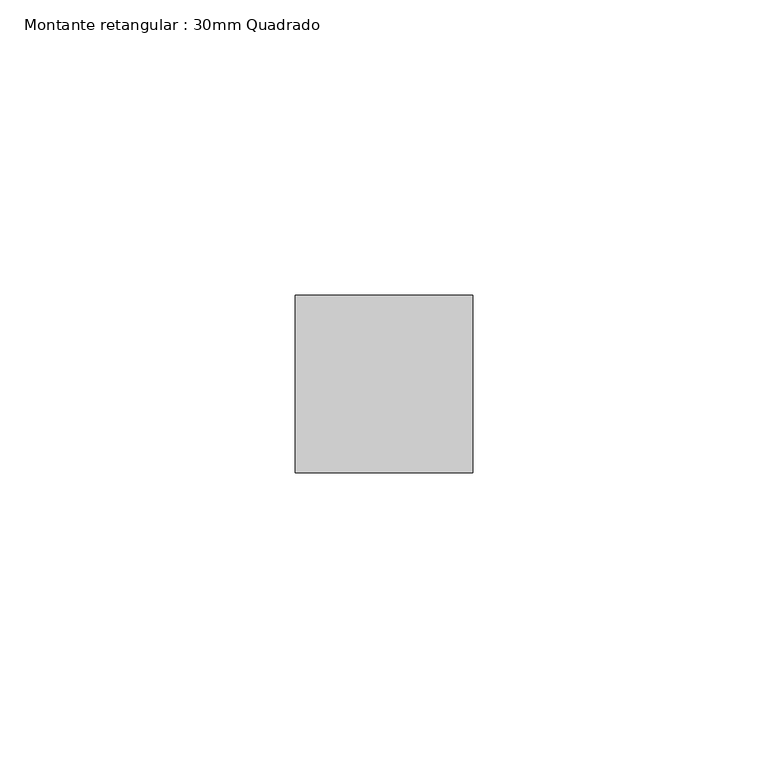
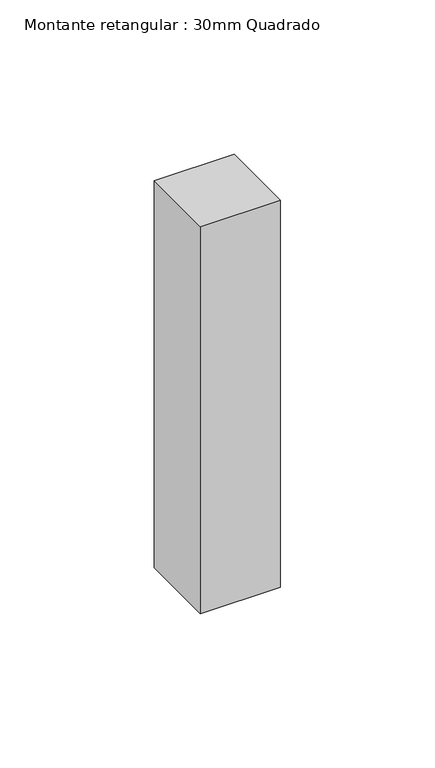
"""IFC4 building model written with IfcOpenShell, lengths in millimetres: member geometry, Montante retangular : 30mm Quadrado."""

import ifcopenshell
import ifcopenshell.guid

model = None  # the IFC model being written
_history = None  # IfcOwnerHistory: only IFC2X3 demands one
_inside = {}  # id of a spatial element -> (the spatial element, [elements in it])
_under = {}  # id of a project, library or spatial element -> (it, [spatial elements below it])
_declared = {}  # id of a project -> (the project, [libraries it declares])
_typed = {}  # id of a type object -> (the type object, [elements of that type])
_made_of = {}  # id of a material, layer set ... -> (it, [elements and type objects made of it])


def new_model(schema):
    """Start an empty IFC model of exactly this schema.

    Asked for "IFC4X3", IfcOpenShell would pick the latest addendum, in which some entities
    have other attributes; the version numbers below select the first issue.
    IFC2X3 requires an IfcOwnerHistory on every rooted entity: one is made here for all.
    """
    global model, _history
    if schema == "IFC4X3":
        model = ifcopenshell.file(schema_version=(4, 3, 0, 0))
    else:
        model = ifcopenshell.file(schema=schema)
    _inside.clear()
    _under.clear()
    _declared.clear()
    _typed.clear()
    _made_of.clear()
    _history = None
    if model.schema == "IFC2X3":
        org = make("IfcOrganization", Name="unknown")
        user = make(
            "IfcPersonAndOrganization",
            ThePerson=make("IfcPerson", FamilyName="unknown"),
            TheOrganization=org,
        )
        app = make(
            "IfcApplication",
            ApplicationDeveloper=org,
            Version="unknown",
            ApplicationFullName="unknown",
            ApplicationIdentifier="unknown",
        )
        _history = make(
            "IfcOwnerHistory",
            OwningUser=user,
            OwningApplication=app,
            ChangeAction="ADDED",
            CreationDate=0,
        )
    return model


def make(cls, **values):
    """One entity of the class cls with the attributes given. An attribute that is None is left unset."""
    return model.create_entity(
        cls, **{name: value for name, value in values.items() if value is not None}
    )


def rooted(cls, **values):
    """An entity with a GlobalId (a new one), such as an element, a storey or a relation."""
    return make(cls, GlobalId=ifcopenshell.guid.new(), OwnerHistory=_history, **values)


def si_unit(unit_type, name, prefix=None):
    """IfcSIUnit, for example si_unit("LENGTHUNIT", "METRE", prefix="MILLI")."""
    return make("IfcSIUnit", UnitType=unit_type, Prefix=prefix, Name=name)


def assignment(units):
    """IfcUnitAssignment: the units of a project."""
    return None if units is None else make("IfcUnitAssignment", Units=units)


def point(xyz):
    """IfcCartesianPoint."""
    return None if xyz is None else make("IfcCartesianPoint", Coordinates=xyz)


def direction(xyz):
    """IfcDirection."""
    return None if xyz is None else make("IfcDirection", DirectionRatios=xyz)


def frame(location, z_axis=None, x_axis=None):
    """IfcAxis2Placement3D, a coordinate frame: its origin and axes. An axis left out is left unset."""
    return make(
        "IfcAxis2Placement3D",
        Location=point(location),
        Axis=direction(z_axis),
        RefDirection=direction(x_axis),
    )


def origin():
    """The frame at (0, 0, 0) with its axes left unset."""
    return frame((0.0, 0.0, 0.0))


def place(relative_to, where):
    """IfcLocalPlacement: puts the frame where relative to a parent placement (None: the world)."""
    return make(
        "IfcLocalPlacement", PlacementRelTo=relative_to, RelativePlacement=where
    )


def context(
    kind, dimensions, precision=None, world=None, true_north=None, identifier=None
):
    """IfcGeometricRepresentationContext, for example the 3D "Model" context."""
    return make(
        "IfcGeometricRepresentationContext",
        ContextIdentifier=identifier,
        ContextType=kind,
        CoordinateSpaceDimension=dimensions,
        Precision=precision,
        WorldCoordinateSystem=world,
        TrueNorth=true_north,
    )


def project(units=None, contexts=None):
    """IfcProject with its units and contexts."""
    return rooted(
        "IfcProject",
        Name="project",
        RepresentationContexts=contexts,
        UnitsInContext=assignment(units),
    )


def spatial(cls, under=None, at=None, **own):
    """A site, building, storey or space (cls), placed at a placement, below another one or the project."""
    s = rooted(cls, ObjectPlacement=at, **own)
    if under is not None:
        _under.setdefault(under.id(), (under, []))[1].append(s)
    return s


def polyline(points):
    """IfcPolyline through the points."""
    return make("IfcPolyline", Points=[point(p) for p in points])


def outline(outer, holes=None, kind="AREA"):
    """IfcArbitraryClosedProfileDef: a profile drawn as a closed curve; with holes, ...WithVoids."""
    if holes is None:
        return make("IfcArbitraryClosedProfileDef", ProfileType=kind, OuterCurve=outer)
    return make(
        "IfcArbitraryProfileDefWithVoids",
        ProfileType=kind,
        OuterCurve=outer,
        InnerCurves=holes,
    )


def extrude(swept, where, along, depth):
    """IfcExtrudedAreaSolid: the profile swept, set in the frame where, extruded along a direction by depth."""
    return make(
        "IfcExtrudedAreaSolid",
        SweptArea=swept,
        Position=where,
        ExtrudedDirection=direction(along),
        Depth=depth,
    )


def shape(context_of_items, identifier, shape_type, items):
    """IfcShapeRepresentation: the items that make up one representation, for example the "Body"."""
    return make(
        "IfcShapeRepresentation",
        ContextOfItems=context_of_items,
        RepresentationIdentifier=identifier,
        RepresentationType=shape_type,
        Items=items,
    )


def source(mapping_origin, context_of_items, identifier, shape_type, items):
    """IfcRepresentationMap: a shape defined once, which mapped items show again and again."""
    return make(
        "IfcRepresentationMap",
        MappingOrigin=mapping_origin,
        MappedRepresentation=shape(context_of_items, identifier, shape_type, items),
    )


def transform(
    local_origin,
    x_axis=None,
    y_axis=None,
    z_axis=None,
    scale=None,
    scale2=None,
    scale3=None,
    uniform=True,
):
    """IfcCartesianTransformationOperator3D, or its non-uniform kind. x_axis, y_axis, z_axis: its Axis1, 2, 3."""
    if uniform:
        return make(
            "IfcCartesianTransformationOperator3D",
            Axis1=direction(x_axis),
            Axis2=direction(y_axis),
            LocalOrigin=point(local_origin),
            Scale=scale,
            Axis3=direction(z_axis),
        )
    return make(
        "IfcCartesianTransformationOperator3DnonUniform",
        Axis1=direction(x_axis),
        Axis2=direction(y_axis),
        LocalOrigin=point(local_origin),
        Scale=scale,
        Axis3=direction(z_axis),
        Scale2=scale2,
        Scale3=scale3,
    )


def mapped(mapping_source, mapping_target):
    """IfcMappedItem: shows the shape of a source again, moved by a transform."""
    return make(
        "IfcMappedItem", MappingSource=mapping_source, MappingTarget=mapping_target
    )


def made_of(thing, what):
    """Note that an element or type object is made of a material, layer set ...; save() writes the relation."""
    if what is not None:
        _made_of.setdefault(what.id(), (what, []))[1].append(thing)
    return thing


def element(
    cls,
    number,
    at=None,
    inside=None,
    cuts=None,
    type_object=None,
    material=None,
    context=None,
    identifier="Body",
    shape_type=None,
    held_by="IfcProductDefinitionShape",
    body=None,
    shapes=None,
    **own,
):
    """One element of the class cls, such as IfcWall. Its Tag is "e" and its number.

    at: its placement. inside: the storey or other place that contains it. cuts: it is an
    opening in that element (IfcRelVoidsElement). A single representation is given by context,
    identifier, shape_type and body (its items); several are given by shapes. held_by: the class
    of the entity that holds the representations. save() writes the other relations.
    """
    e = rooted(cls, Tag="e%d" % number, ObjectPlacement=at, **own)
    if body is not None:
        shapes = [shape(context, identifier, shape_type, body)]
    if shapes is not None:
        e.Representation = make(held_by, Representations=shapes)
    if inside is not None:
        _inside.setdefault(inside.id(), (inside, []))[1].append(e)
    if cuts is not None:
        rooted(
            "IfcRelVoidsElement", RelatingBuildingElement=cuts, RelatedOpeningElement=e
        )
    if type_object is not None:
        _typed.setdefault(type_object.id(), (type_object, []))[1].append(e)
    return made_of(e, material)


def aggregate(whole, parts):
    """IfcRelAggregates: a whole, such as a stair, and the parts it consists of."""
    return rooted("IfcRelAggregates", RelatingObject=whole, RelatedObjects=parts)


def save(model, path):
    """Write the relations noted so far, then the file.

    IfcRelAggregates (storeys below a building ...), IfcRelContainedInSpatialStructure (elements
    in a storey), IfcRelDefinesByType, IfcRelAssociatesMaterial and IfcRelDeclares: one each for
    every whole, place, type object, material and project.
    """
    for whole, parts in _under.values():
        aggregate(whole, parts)
    for where, things in _inside.values():
        rooted(
            "IfcRelContainedInSpatialStructure",
            RelatedElements=things,
            RelatingStructure=where,
        )
    for kind, things in _typed.values():
        rooted("IfcRelDefinesByType", RelatedObjects=things, RelatingType=kind)
    for what, things in _made_of.values():
        rooted("IfcRelAssociatesMaterial", RelatedObjects=things, RelatingMaterial=what)
    for by, libraries in _declared.values():
        rooted("IfcRelDeclares", RelatingContext=by, RelatedDefinitions=libraries)
    model.write(path)


def montante_retangular_30mm_quadrado_48edb5a7(model_context):
    return source(origin(), model_context, "Body", "SweptSolid", [
        extrude(outline(polyline([(15.0, 15.0), (15.0, -15.0), (-15.0, -15.0), (-15.0, 15.0), (15.0, 15.0)])), frame((0.0, 0.0, -153.3905751), z_axis=(0.0, 0.0, 1.0), x_axis=(1.0, 0.0, 0.0)), (0.0, 0.0, 1.0), 153.3905751),
    ])


if __name__ == "__main__":
    model = new_model("IFC4")
    model_context = context("Model", 3, world=origin())
    ifc_project = project(units=[si_unit("LENGTHUNIT", "METRE", prefix="MILLI")], contexts=[model_context])
    site = spatial("IfcSite", under=ifc_project)
    building = spatial("IfcBuilding", under=site)
    placement = place(None, origin())
    montante_retangular_30mm_quadrado_shape = montante_retangular_30mm_quadrado_48edb5a7(model_context)
    element("IfcMember", 1, ObjectType="Montante retangular : 30mm Quadrado", at=placement, inside=building, context=model_context, shape_type="MappedRepresentation", body=[
        mapped(montante_retangular_30mm_quadrado_shape, transform((0.0, 0.0, 0.0), x_axis=(1.0, 0.0, 0.0), y_axis=(0.0, 1.0, 0.0), z_axis=(0.0, 0.0, 1.0))),
    ])
    save(model, "model.ifc")
